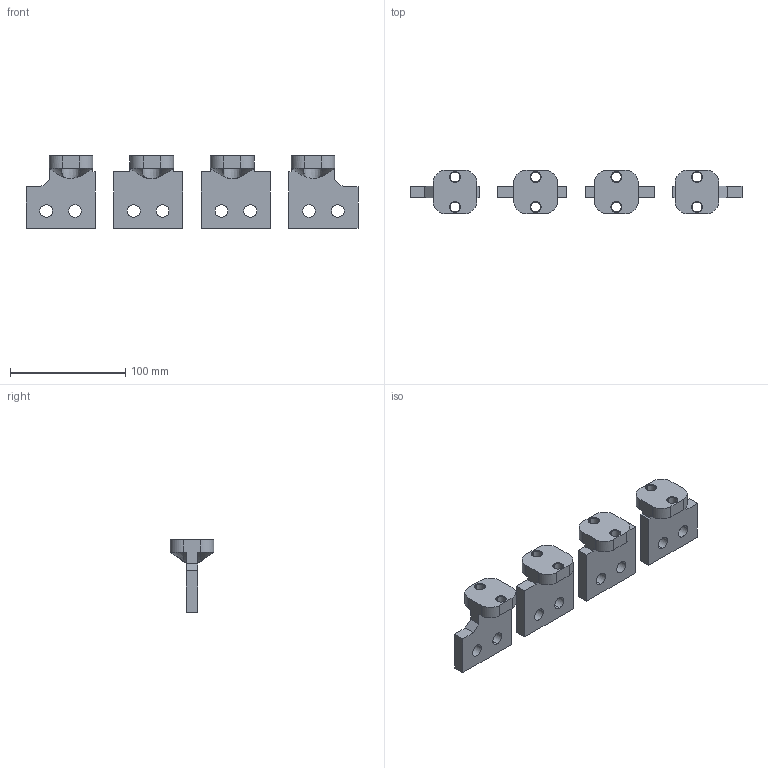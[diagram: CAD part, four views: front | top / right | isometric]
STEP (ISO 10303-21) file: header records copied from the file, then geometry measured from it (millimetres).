
FILE_DESCRIPTION (( 'STEP AP203' ), '1' );
FILE_NAME ('Âûâîäû ãîðèç. íèæíèå äëÿ âûêàòíîãî íà 800-1000À 4P.STEP', '2024-06-25T10:12:08', ( '' ), ( '' ), 'SwSTEP 2.0', 'SolidWorks 2018', '' );
FILE_SCHEMA (( 'CONFIG_CONTROL_DESIGN' ));
Length unit declared in the file: millimetre
Products named in the file (1): Âûâîäû ãîðèç. íèæíèå äëÿ âûêàòíîãî íà 800-1000À 4P
Bounding box: 288 x 38 x 63 mm (x, y, z)
Volume: 170023.8 mm3; surface area: 48739.3 mm2
Topology: 4 solids, 4 shells, 258 faces, 676 edges, 426 vertices
Faces by surface type: plane 96, bspline 82, cylinder 56, cone 24
Entity records: 21729 total; most frequent: CARTESIAN_POINT 15859, ORIENTED_EDGE 1352, DIRECTION 978, EDGE_CURVE 676, VERTEX_POINT 426, AXIS2_PLACEMENT_3D 351, EDGE_LOOP 290, LINE 276
